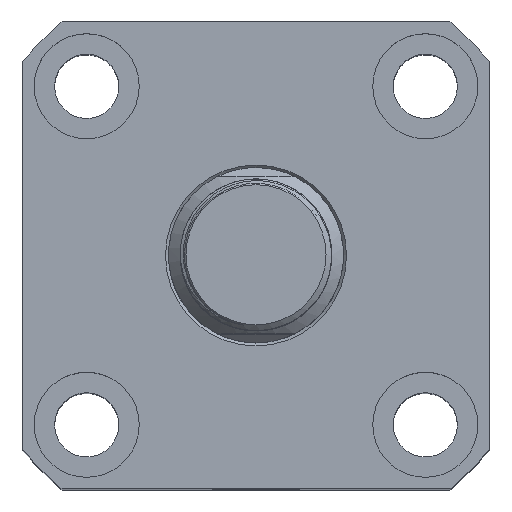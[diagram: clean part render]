
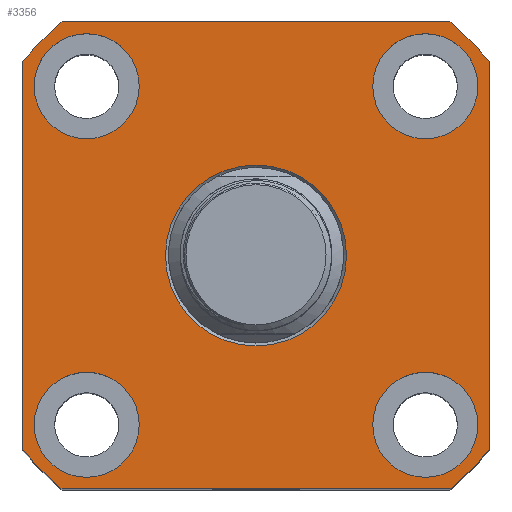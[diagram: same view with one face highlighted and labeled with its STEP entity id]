
A CAD part, top view. The second image highlights one B-rep face of the part: STEP entity #3356.
In plain terms, the highlighted planar face has unit normal (0, 0, 1).
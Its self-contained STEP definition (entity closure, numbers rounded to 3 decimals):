
#3356=ADVANCED_FACE('',(#4112,#4113,#4114,#4115,#4116,#4117),#3774,.T.);
#3774=PLANE('',#11645);
#4112=FACE_BOUND('',#4355,.T.);
#4113=FACE_BOUND('',#4356,.T.);
#4114=FACE_BOUND('',#4357,.T.);
#4115=FACE_BOUND('',#4358,.T.);
#4116=FACE_BOUND('',#4359,.T.);
#4117=FACE_BOUND('',#4360,.T.);
#4355=EDGE_LOOP('',(#6600));
#4356=EDGE_LOOP('',(#6601));
#4357=EDGE_LOOP('',(#6602));
#4358=EDGE_LOOP('',(#6603));
#4359=EDGE_LOOP('',(#6604));
#4360=EDGE_LOOP('',(#6605,#6606,#6607,#6608,#6609,#6610,#6611,#6612));
#4877=LINE('',#13855,#5634);
#4884=LINE('',#14517,#5641);
#4888=LINE('',#14532,#5645);
#4891=LINE('',#14541,#5648);
#5634=VECTOR('',#12049,1.);
#5641=VECTOR('',#12208,1.);
#5645=VECTOR('',#12226,1.);
#5648=VECTOR('',#12237,1.);
#6600=ORIENTED_EDGE('',*,*,#10120,.T.);
#6601=ORIENTED_EDGE('',*,*,#10183,.F.);
#6602=ORIENTED_EDGE('',*,*,#10185,.F.);
#6603=ORIENTED_EDGE('',*,*,#10187,.F.);
#6604=ORIENTED_EDGE('',*,*,#10189,.F.);
#6605=ORIENTED_EDGE('',*,*,#10209,.T.);
#6606=ORIENTED_EDGE('',*,*,#10213,.T.);
#6607=ORIENTED_EDGE('',*,*,#10215,.T.);
#6608=ORIENTED_EDGE('',*,*,#10118,.T.);
#6609=ORIENTED_EDGE('',*,*,#10218,.T.);
#6610=ORIENTED_EDGE('',*,*,#10221,.T.);
#6611=ORIENTED_EDGE('',*,*,#10224,.T.);
#6612=ORIENTED_EDGE('',*,*,#10226,.T.);
#9120=VERTEX_POINT('',#13854);
#9121=VERTEX_POINT('',#13856);
#9122=VERTEX_POINT('',#13860);
#9184=VERTEX_POINT('',#14445);
#9186=VERTEX_POINT('',#14450);
#9188=VERTEX_POINT('',#14455);
#9190=VERTEX_POINT('',#14460);
#9210=VERTEX_POINT('',#14508);
#9211=VERTEX_POINT('',#14510);
#9213=VERTEX_POINT('',#14516);
#9215=VERTEX_POINT('',#14525);
#9217=VERTEX_POINT('',#14531);
#9219=VERTEX_POINT('',#14537);
#10118=EDGE_CURVE('',#9121,#9120,#4877,.T.);
#10120=EDGE_CURVE('',#9122,#9122,#11434,.T.);
#10183=EDGE_CURVE('',#9184,#9184,#11457,.T.);
#10185=EDGE_CURVE('',#9186,#9186,#11459,.T.);
#10187=EDGE_CURVE('',#9188,#9188,#11461,.T.);
#10189=EDGE_CURVE('',#9190,#9190,#11463,.T.);
#10209=EDGE_CURVE('',#9211,#9210,#11482,.T.);
#10213=EDGE_CURVE('',#9210,#9213,#4884,.T.);
#10215=EDGE_CURVE('',#9213,#9121,#11484,.T.);
#10218=EDGE_CURVE('',#9120,#9215,#11486,.T.);
#10221=EDGE_CURVE('',#9215,#9217,#4888,.T.);
#10224=EDGE_CURVE('',#9217,#9219,#11488,.T.);
#10226=EDGE_CURVE('',#9219,#9211,#4891,.T.);
#11434=CIRCLE('',#11558,15.5);
#11457=CIRCLE('',#11594,9.);
#11459=CIRCLE('',#11597,9.);
#11461=CIRCLE('',#11600,9.);
#11463=CIRCLE('',#11603,9.);
#11482=CIRCLE('',#11631,52.);
#11484=CIRCLE('',#11635,52.);
#11486=CIRCLE('',#11638,52.);
#11488=CIRCLE('',#11642,52.);
#11558=AXIS2_PLACEMENT_3D('',#13859,#12053,#12054);
#11594=AXIS2_PLACEMENT_3D('',#14444,#12126,#12127);
#11597=AXIS2_PLACEMENT_3D('',#14449,#12132,#12133);
#11600=AXIS2_PLACEMENT_3D('',#14454,#12138,#12139);
#11603=AXIS2_PLACEMENT_3D('',#14459,#12144,#12145);
#11631=AXIS2_PLACEMENT_3D('',#14509,#12201,#12202);
#11635=AXIS2_PLACEMENT_3D('',#14520,#12213,#12214);
#11638=AXIS2_PLACEMENT_3D('',#14526,#12220,#12221);
#11642=AXIS2_PLACEMENT_3D('',#14538,#12232,#12233);
#11645=AXIS2_PLACEMENT_3D('',#14543,#12240,#12241);
#12049=DIRECTION('',(1.,0.,0.));
#12053=DIRECTION('',(0.,0.,-1.));
#12054=DIRECTION('',(1.,0.,0.));
#12126=DIRECTION('',(0.,0.,1.));
#12127=DIRECTION('',(1.,0.,0.));
#12132=DIRECTION('',(0.,0.,1.));
#12133=DIRECTION('',(1.,0.,0.));
#12138=DIRECTION('',(0.,0.,1.));
#12139=DIRECTION('',(1.,0.,0.));
#12144=DIRECTION('',(0.,0.,1.));
#12145=DIRECTION('',(1.,0.,0.));
#12201=DIRECTION('',(0.,0.,1.));
#12202=DIRECTION('',(1.,0.,0.));
#12208=DIRECTION('',(0.,-1.,0.));
#12213=DIRECTION('',(0.,0.,1.));
#12214=DIRECTION('',(1.,0.,0.));
#12220=DIRECTION('',(0.,0.,1.));
#12221=DIRECTION('',(1.,0.,0.));
#12226=DIRECTION('',(0.,1.,0.));
#12232=DIRECTION('',(0.,0.,1.));
#12233=DIRECTION('',(1.,0.,0.));
#12237=DIRECTION('',(-1.,0.,0.));
#12240=DIRECTION('',(0.,0.,1.));
#12241=DIRECTION('',(-1.,0.,0.));
#13854=CARTESIAN_POINT('',(33.226,-40.,50.));
#13855=CARTESIAN_POINT('',(-33.226,-40.,50.));
#13856=CARTESIAN_POINT('',(-33.226,-40.,50.));
#13859=CARTESIAN_POINT('',(0.,0.,50.));
#13860=CARTESIAN_POINT('',(15.5,0.,50.));
#14444=CARTESIAN_POINT('',(29.,-29.,50.));
#14445=CARTESIAN_POINT('',(38.,-29.,50.));
#14449=CARTESIAN_POINT('',(-29.,-29.,50.));
#14450=CARTESIAN_POINT('',(-20.,-29.,50.));
#14454=CARTESIAN_POINT('',(-29.,29.,50.));
#14455=CARTESIAN_POINT('',(-20.,29.,50.));
#14459=CARTESIAN_POINT('',(29.,29.,50.));
#14460=CARTESIAN_POINT('',(38.,29.,50.));
#14508=CARTESIAN_POINT('',(-40.,33.226,50.));
#14509=CARTESIAN_POINT('',(0.,0.,50.));
#14510=CARTESIAN_POINT('',(-33.226,40.,50.));
#14516=CARTESIAN_POINT('',(-40.,-33.226,50.));
#14517=CARTESIAN_POINT('',(-40.,33.226,50.));
#14520=CARTESIAN_POINT('',(0.,0.,50.));
#14525=CARTESIAN_POINT('',(40.,-33.226,50.));
#14526=CARTESIAN_POINT('',(0.,0.,50.));
#14531=CARTESIAN_POINT('',(40.,33.226,50.));
#14532=CARTESIAN_POINT('',(40.,33.226,50.));
#14537=CARTESIAN_POINT('',(33.226,40.,50.));
#14538=CARTESIAN_POINT('',(0.,0.,50.));
#14541=CARTESIAN_POINT('',(-33.226,40.,50.));
#14543=CARTESIAN_POINT('',(0.,0.,50.));
